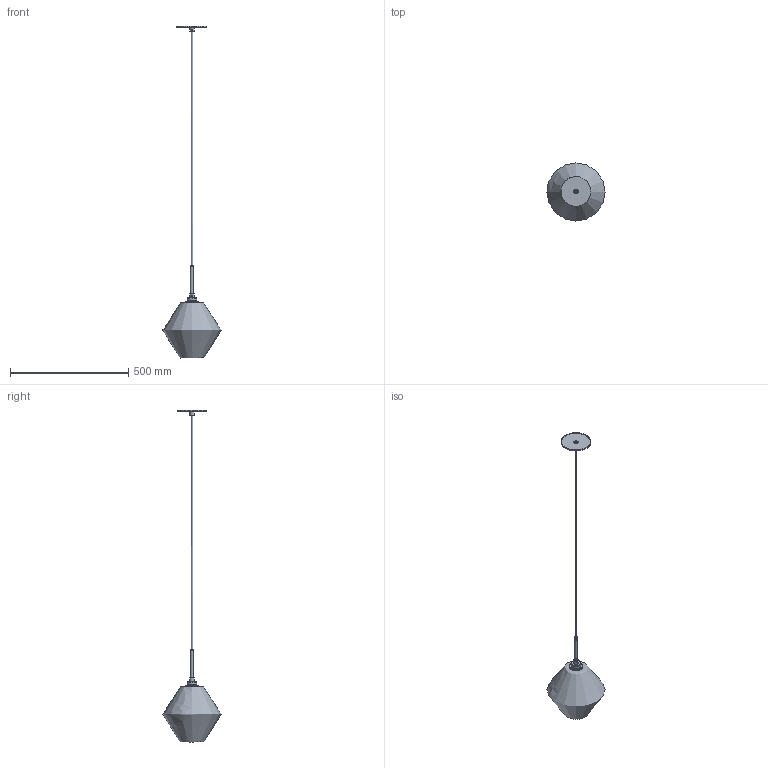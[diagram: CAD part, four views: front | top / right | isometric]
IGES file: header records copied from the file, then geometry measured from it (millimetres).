
Global section: file name: Niche - Trove Pendant; native system: unknown; preprocessor: unknown; author: unknown; organization: unknown; date: 20220809.154236; units: inch
Bounding box: 246.46 x 246.48 x 1406.43 mm (x, y, z)
Volume: 973279.8 mm3; surface area: 416984.8 mm2
Topology: 12 solids, 12 shells, 162 faces, 401 edges, 268 vertices
Faces by surface type: bspline 162
